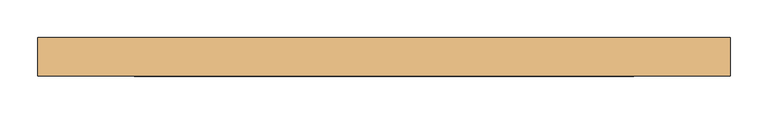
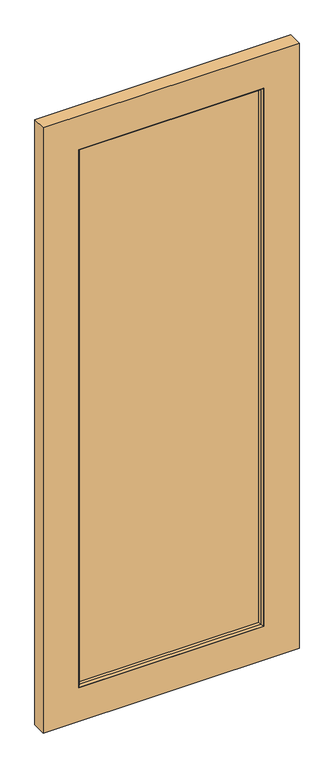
"""IFC4 building model written with IfcOpenShell, lengths in millimetres: door geometry, Planitar - Swap_Full Glass_Panel : Planitar - Swap_Full Glass_Panel."""

from ifc_helpers import new_model, si_unit, frame, origin, place, context, project, spatial, polyline, outline, extrude, faceted_brep, source, transform, mapped, element, save


def door_9453a76a(model_context):
    return source(origin(), model_context, "Body", "SolidModel", [
        extrude(outline(polyline([(2286.0, 457.2), (2286.0, -457.2), (0.0, -457.2), (0.0, 457.2), (2286.0, 457.2)]), holes=[polyline([(127.0, 330.2), (127.0, -330.2), (2159.0, -330.2), (2159.0, 330.2), (127.0, 330.2)])]), frame((0.0, -25.4, 0.0), z_axis=(0.0, 1.0, 0.0), x_axis=(0.0, 0.0, 1.0)), (0.0, 0.0, 1.0), 50.8),
        extrude(outline(polyline([(323.85, -6.35), (-323.85, -6.35), (-323.85, 6.35), (323.85, 6.35), (323.85, -6.35)])), frame((0.0, 0.0, 133.35), z_axis=(0.0, 0.0, 1.0), x_axis=(1.0, 0.0, 0.0)), (0.0, 0.0, 1.0), 2019.3),
        faceted_brep([(323.85, 19.05, 133.35), (330.2, 25.4, 127.0), (-330.2, 25.4, 127.0), (-323.85, 19.05, 133.35), (-330.2, 25.4, 2159.0), (-323.85, 19.05, 2152.65), (-330.2, -25.4, 127.0), (-330.2, -25.4, 2159.0), (-323.85, -19.05, 2152.65), (-323.85, -19.05, 133.35), (323.85, -19.05, 133.35), (330.2, -25.4, 127.0), (323.85, 19.05, 2152.65), (330.2, 25.4, 2159.0), (330.2, -25.4, 2159.0), (323.85, -19.05, 2152.65)], [[[0, 1, 2, 3]], [[3, 2, 4, 5]], [[2, 6, 7, 4]], [[3, 5, 8, 9]], [[6, 9, 8, 7]], [[10, 0, 3, 9]], [[11, 10, 9, 6]], [[1, 11, 6, 2]], [[12, 13, 1, 0]], [[13, 14, 11, 1]], [[15, 12, 0, 10]], [[14, 15, 10, 11]], [[5, 4, 13, 12]], [[8, 5, 12, 15]], [[7, 8, 15, 14]], [[4, 7, 14, 13]]]),
    ])


if __name__ == "__main__":
    model = new_model("IFC4")
    model_context = context("Model", 3, world=origin())
    ifc_project = project(units=[si_unit("LENGTHUNIT", "METRE", prefix="MILLI")], contexts=[model_context])
    site = spatial("IfcSite", under=ifc_project)
    building = spatial("IfcBuilding", under=site)
    placement = place(None, origin())
    door_shape = door_9453a76a(model_context)
    element("IfcDoor", 1, ObjectType="Planitar - Swap_Full Glass_Panel : Planitar - Swap_Full Glass_Panel", at=placement, inside=building, context=model_context, shape_type="MappedRepresentation", body=[
        mapped(door_shape, transform((0.0, 0.0, 0.0), x_axis=(1.0, 0.0, 0.0), y_axis=(0.0, 1.0, 0.0), z_axis=(0.0, 0.0, 1.0))),
    ])
    save(model, "model.ifc")
